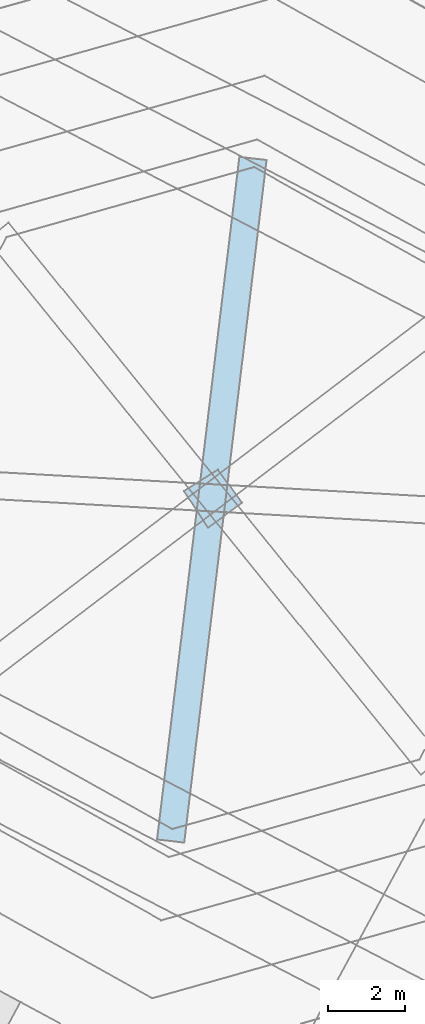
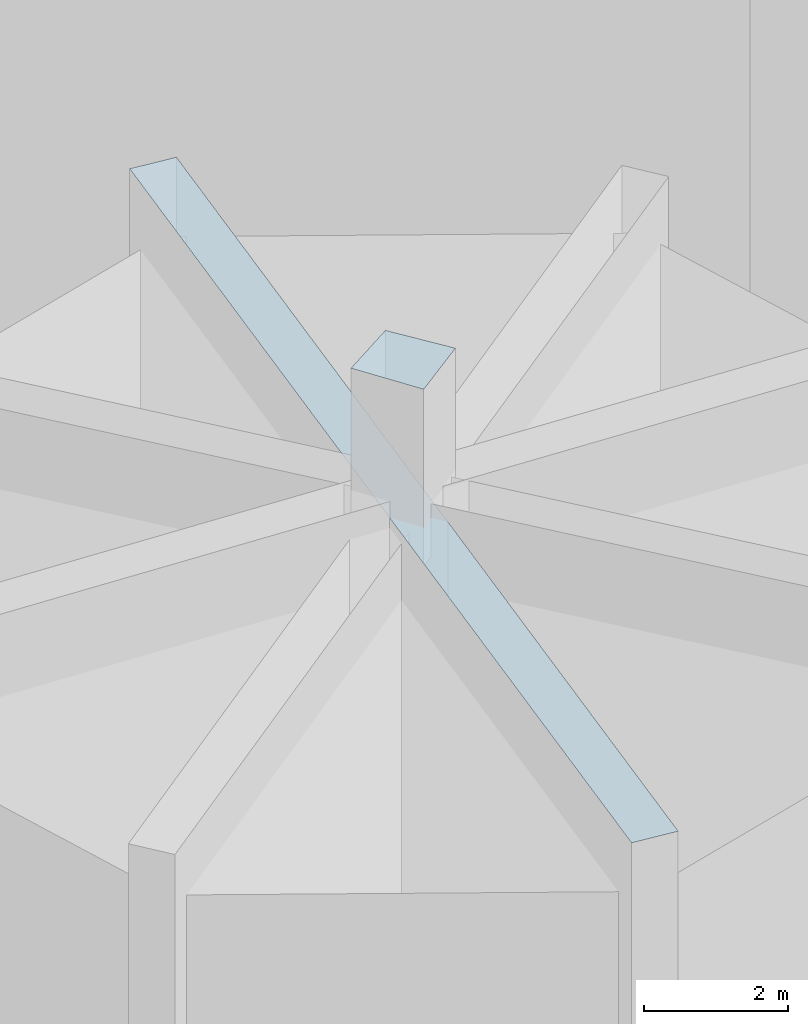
# Not in any storey, part 38 of 76: 2 roofs.
"""IFC2X3 model written with IfcOpenShell, lengths in metres."""

from ifc_helpers import new_model, si_unit, frame, origin_with_axes, place, context, subcontext, project, faceted_brep, element, save


model = new_model("IFC2X3")

# Units and contexts
model_context = context("Model", 3, precision=1e-05, world=origin_with_axes())
body_context = subcontext(model_context, "Body", "Model", "MODEL_VIEW")
ifc_project = project(units=[si_unit("AREAUNIT", "SQUARE_METRE"), si_unit("LENGTHUNIT", "METRE")], contexts=[model_context])

# Roofs
roof_1_placement = place(None, frame((205.5562085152, 290.3465658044, 267.1773750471), z_axis=(0.0, 0.0, 1.0), x_axis=(1.0, 0.0, 0.0)))
element("IfcRoof", 1, at=roof_1_placement, Name="Toiture 0", ShapeType="NOTDEFINED", context=body_context, shape_type="Brep", body=[
    faceted_brep([(0.87146067, 0.5541448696, 3.0), (0.0, 0.0, 3.0), (0.6187999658, -0.947598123, 3.0), (1.4976682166, -0.304548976, 3.0)], [[[0, 1, 2]], [[2, 3, 0]]]),
])
roof_2_placement = place(None, frame((204.8589467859, 281.3456288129, 259.8320280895), z_axis=(0.0, 0.0, 1.0), x_axis=(1.0, 0.0, 0.0)))
element("IfcRoof", 2, at=roof_2_placement, Name="Toiture 0", ShapeType="NOTDEFINED", context=body_context, shape_type="Brep", body=[
    faceted_brep([(2.1249003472, 17.6217888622, 8.0), (0.0, 0.0, 8.0), (0.7015744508, -0.0806595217, 8.0), (2.8264731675, 17.5411295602, 8.0)], [[[0, 1, 2]], [[2, 3, 0]]]),
])

save(model, "model.ifc")
